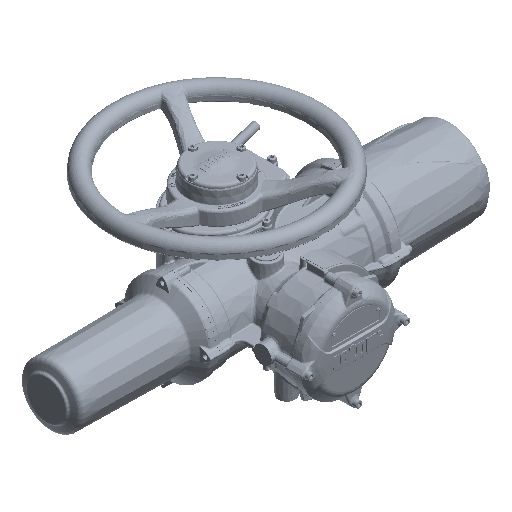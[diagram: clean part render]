
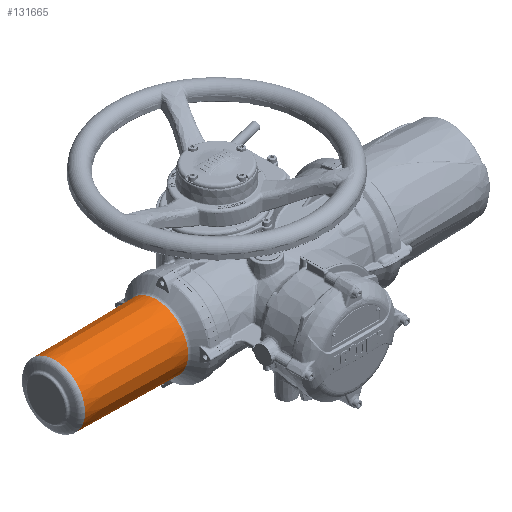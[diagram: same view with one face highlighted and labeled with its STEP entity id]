
A CAD part, isometric view. The second image highlights one B-rep face of the part: STEP entity #131665.
In plain terms, the highlighted conical face has half-angle 0.75 degrees and reference radius 65.5 mm.
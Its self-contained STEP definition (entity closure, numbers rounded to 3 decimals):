
#4859=CONICAL_SURFACE('',#139591,65.5,0.013);
#17125=B_SPLINE_CURVE_WITH_KNOTS('',3,(#240322,#240323,#240324,#240325,
#240326,#240327,#240328,#240329,#240330,#240331,#240332,#240333,#240334,
#240335,#240336,#240337,#240338,#240339,#240340,#240341,#240342,#240343,
#240344,#240345,#240346,#240347,#240348,#240349,#240350,#240351),
 .UNSPECIFIED.,.T.,.F.,(1,1,1,1,1,1,1,1,1,1,1,1,1,1,1,1,1,1,1,1,1,1,1,1,
1,1,1,1,1,1,1,1,1,1),(-0.016,-0.013,-0.006,
0.,0.003,0.006,0.01,0.013,
0.016,0.019,0.022,0.026,
0.029,0.032,0.035,0.038,
0.042,0.045,0.051,0.058,
0.064,0.067,0.07,0.074,
0.077,0.08,0.083,0.086,
0.09,0.096,0.102,0.106,
0.109,0.112),.UNSPECIFIED.);
#41173=ORIENTED_EDGE('',*,*,#57711,.T.);
#41174=ORIENTED_EDGE('',*,*,#57714,.T.);
#41175=ORIENTED_EDGE('',*,*,#57715,.F.);
#57711=EDGE_CURVE('',#67211,#67211,#72423,.F.);
#57714=EDGE_CURVE('',#67212,#67212,#17125,.T.);
#57715=EDGE_CURVE('',#67213,#67213,#72426,.T.);
#67211=VERTEX_POINT('',#240192);
#67212=VERTEX_POINT('',#240352);
#67213=VERTEX_POINT('',#240354);
#72423=CIRCLE('',#139588,65.464);
#72426=CIRCLE('',#139592,62.731);
#78190=EDGE_LOOP('',(#41173));
#78191=EDGE_LOOP('',(#41174));
#78192=EDGE_LOOP('',(#41175));
#84503=FACE_BOUND('',#78190,.T.);
#84504=FACE_BOUND('',#78191,.T.);
#84505=FACE_BOUND('',#78192,.T.);
#131665=ADVANCED_FACE('',(#84503,#84504,#84505),#4859,.T.);
#139588=AXIS2_PLACEMENT_3D('',#240191,#157508,#157509);
#139591=AXIS2_PLACEMENT_3D('',#240321,#157514,#157515);
#139592=AXIS2_PLACEMENT_3D('',#240353,#157516,#157517);
#157508=DIRECTION('',(1.,0.,0.));
#157509=DIRECTION('',(0.,0.,-1.));
#157514=DIRECTION('',(1.,0.,0.));
#157515=DIRECTION('',(0.,0.,-1.));
#157516=DIRECTION('',(-1.,0.,0.));
#157517=DIRECTION('',(0.,0.,1.));
#240191=CARTESIAN_POINT('',(-184.607,-60.,0.));
#240192=CARTESIAN_POINT('',(-184.607,-60.,-65.464));
#240321=CARTESIAN_POINT('',(-181.857,-60.,0.));
#240322=CARTESIAN_POINT('',(-261.185,-51.356,-63.957));
#240323=CARTESIAN_POINT('',(-265.153,-47.6,-63.222));
#240324=CARTESIAN_POINT('',(-268.938,-45.634,-62.74));
#240325=CARTESIAN_POINT('',(-272.024,-44.68,-62.47));
#240326=CARTESIAN_POINT('',(-275.207,-44.28,-62.326));
#240327=CARTESIAN_POINT('',(-278.455,-44.439,-62.323));
#240328=CARTESIAN_POINT('',(-281.574,-45.145,-62.455));
#240329=CARTESIAN_POINT('',(-284.565,-46.412,-62.706));
#240330=CARTESIAN_POINT('',(-287.218,-48.163,-63.03));
#240331=CARTESIAN_POINT('',(-289.536,-50.431,-63.388));
#240332=CARTESIAN_POINT('',(-291.318,-53.067,-63.712));
#240333=CARTESIAN_POINT('',(-292.536,-56.078,-63.957));
#240334=CARTESIAN_POINT('',(-293.057,-59.268,-64.067));
#240335=CARTESIAN_POINT('',(-292.86,-62.496,-64.025));
#240336=CARTESIAN_POINT('',(-291.946,-65.617,-63.836));
#240337=CARTESIAN_POINT('',(-289.876,-69.388,-63.44));
#240338=CARTESIAN_POINT('',(-285.928,-73.141,-62.81));
#240339=CARTESIAN_POINT('',(-279.883,-75.598,-62.296));
#240340=CARTESIAN_POINT('',(-274.446,-75.802,-62.317));
#240341=CARTESIAN_POINT('',(-270.242,-74.842,-62.61));
#240342=CARTESIAN_POINT('',(-267.3,-73.596,-62.936));
#240343=CARTESIAN_POINT('',(-264.607,-71.813,-63.335));
#240344=CARTESIAN_POINT('',(-262.339,-69.592,-63.745));
#240345=CARTESIAN_POINT('',(-260.523,-66.905,-64.121));
#240346=CARTESIAN_POINT('',(-259.331,-63.943,-64.39));
#240347=CARTESIAN_POINT('',(-258.799,-60.726,-64.516));
#240348=CARTESIAN_POINT('',(-259.068,-56.411,-64.452));
#240349=CARTESIAN_POINT('',(-261.185,-51.356,-63.957));
#240350=CARTESIAN_POINT('',(-265.153,-47.6,-63.222));
#240351=CARTESIAN_POINT('',(-268.938,-45.634,-62.74));
#240352=CARTESIAN_POINT('',(-266.15,-47.195,-63.111));
#240353=CARTESIAN_POINT('',(-393.347,-60.,0.));
#240354=CARTESIAN_POINT('',(-393.347,-60.,62.731));
